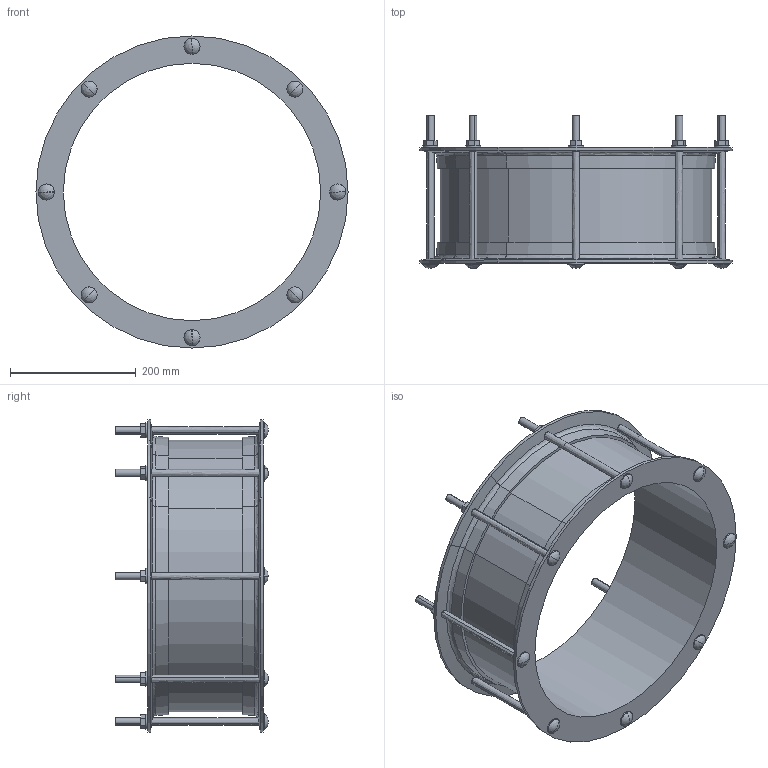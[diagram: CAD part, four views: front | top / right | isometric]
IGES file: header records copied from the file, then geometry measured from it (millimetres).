
Start section:  PTC IGES file: VJC_406.4.igs
Global section: file name: VJC_406.4.igs; native system: Creo Parametric by PTC Inc.; preprocessor: 2016130; author: mfairey; organization: Unknown; date: 20181206.085919; units: millimetre
Bounding box: 496.7 x 243.33 x 496.7 mm (x, y, z)
Surface area: 761649.2 mm2 (no closed solid volume)
Topology: 0 solids, 0 shells, 176 faces, 912 edges, 896 vertices
Faces by surface type: revolution 100, bspline 76
